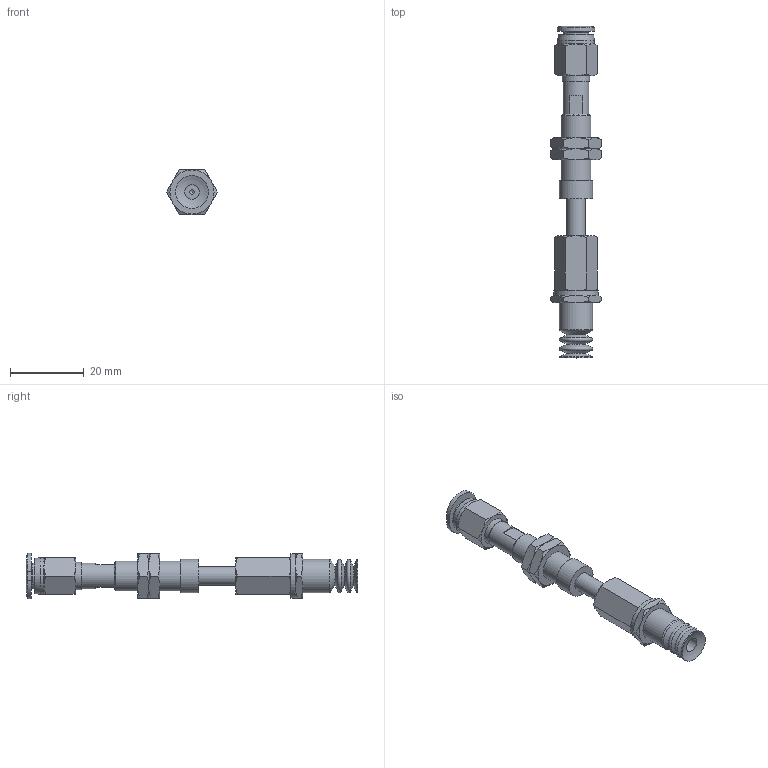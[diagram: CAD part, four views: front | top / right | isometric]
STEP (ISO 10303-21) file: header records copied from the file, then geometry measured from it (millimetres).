
FILE_DESCRIPTION(('STEP AP203'),'1');
FILE_NAME('-O.stp','2025-08-27T02:10:25',(' '),(' '),'Spatial InterOp 3D',' ',' ');
FILE_SCHEMA(('CONFIG_CONTROL_DESIGN'));
Length unit declared in the file: millimetre
Products named in the file (8): BNABPCTS-10-10-※-O; ADAPTER; NAPCTS-10-10-MBODY; Adapter_napc-10-T; Nut napc_s-10-10; NAPCTS-10-10-FBODY; BPCG-10-※; PC-C_06-M5
Assembly tree (8 placements, depth 2):
  BNABPCTS-10-10-※-O
    ADAPTER
    NAPCTS-10-10-MBODY
    Adapter_napc-10-T
    Nut napc_s-10-10  x2
    NAPCTS-10-10-FBODY
    BPCG-10-※
    PC-C_06-M5
Bounding box: 13.86 x 90.18 x 12.4 mm (x, y, z)
Volume: 4461.4 mm3; surface area: 5927.4 mm2
Topology: 7 solids, 10 shells, 193 faces, 389 edges, 228 vertices
Faces by surface type: cone 80, plane 66, cylinder 28, torus 10, bspline 4, revolution 3, sphere 2
Full cylindrical faces by diameter (mm): 1.25 x1, 4 x3, 4.134 x2, 5 x8, 7 x2, 7.188 x2, 7.4 x1, 8 x1, 8.2 x1, 9 x3, 10 x1, 12 x1
Entity records: 5080 total; most frequent: CARTESIAN_POINT 1543, DIRECTION 655, ORIENTED_EDGE 554, AXIS2_PLACEMENT_3D 304, EDGE_CURVE 279, EDGE_LOOP 250, VERTEX_POINT 196, FACE_OUTER_BOUND 147
